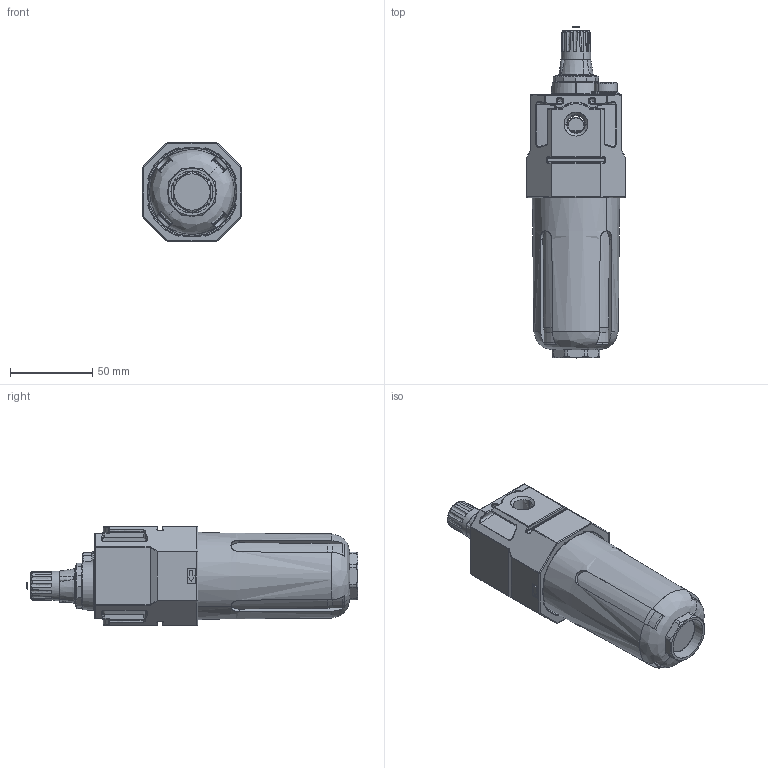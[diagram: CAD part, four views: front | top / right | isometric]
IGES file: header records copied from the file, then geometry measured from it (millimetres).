
Start section: SolidWorks IGES file using analytic representation for surfaces
Bounding box: 60 x 201.25 x 60 mm (x, y, z)
Surface area: 108106 mm2 (no closed solid volume)
Topology: 0 solids, 0 shells, 1714 faces, 47070 edges, 55951 vertices
Faces by surface type: bspline 866, revolution 848
